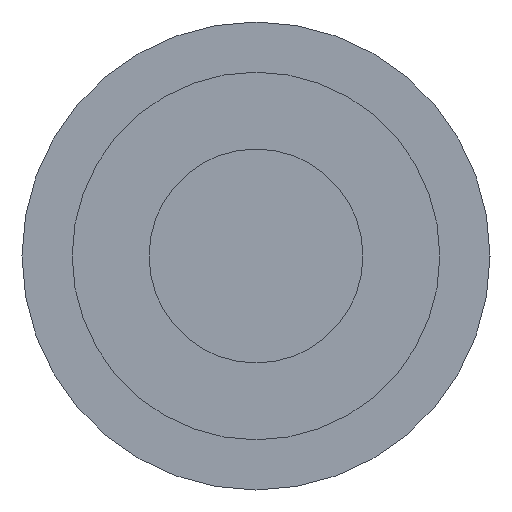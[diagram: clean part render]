
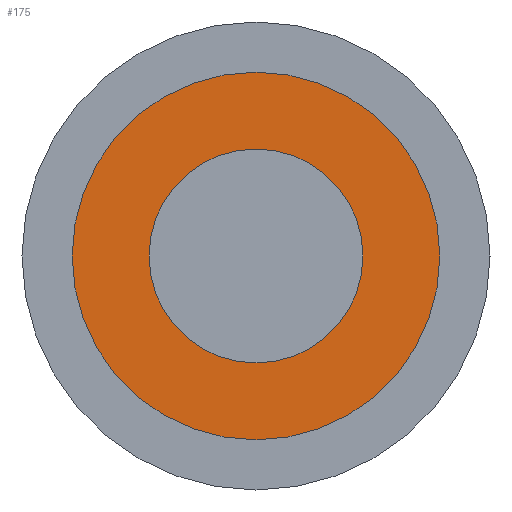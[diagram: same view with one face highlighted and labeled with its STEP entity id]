
A CAD part, left-side view. The second image highlights one B-rep face of the part: STEP entity #175.
In plain terms, the highlighted planar face has unit normal (-1, 0, 0).
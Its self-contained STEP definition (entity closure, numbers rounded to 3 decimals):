
#9 = AXIS2_PLACEMENT_3D ( 'NONE', #272, #73, #496 ) ;
#30 = EDGE_LOOP ( 'NONE', ( #232 ) ) ;
#35 = ORIENTED_EDGE ( 'NONE', *, *, #114, .F. ) ;
#36 = PLANE ( 'NONE',  #220 ) ;
#63 = EDGE_LOOP ( 'NONE', ( #35 ) ) ;
#73 = DIRECTION ( 'NONE',  ( -1., 0., 0. ) ) ;
#77 = CARTESIAN_POINT ( 'NONE',  ( 0., 0., 4. ) ) ;
#102 = VERTEX_POINT ( 'NONE', #276 ) ;
#109 = FACE_BOUND ( 'NONE', #63, .T. ) ;
#110 = DIRECTION ( 'NONE',  ( 0., 0., 1. ) ) ;
#111 = CARTESIAN_POINT ( 'NONE',  ( 0., 0., 0. ) ) ;
#114 = EDGE_CURVE ( 'NONE', #141, #141, #412, .T. ) ;
#116 = CARTESIAN_POINT ( 'NONE',  ( 0., 0., 0. ) ) ;
#141 = VERTEX_POINT ( 'NONE', #77 ) ;
#152 = DIRECTION ( 'NONE',  ( 1., 0., 0. ) ) ;
#175 = ADVANCED_FACE ( 'NONE', ( #109, #492 ), #36, .F. ) ;
#181 = DIRECTION ( 'NONE',  ( -1., 0., 0. ) ) ;
#220 = AXIS2_PLACEMENT_3D ( 'NONE', #116, #152, #362 ) ;
#232 = ORIENTED_EDGE ( 'NONE', *, *, #376, .T. ) ;
#272 = CARTESIAN_POINT ( 'NONE',  ( 0., 0., 0. ) ) ;
#276 = CARTESIAN_POINT ( 'NONE',  ( 0., 0., 6.875 ) ) ;
#362 = DIRECTION ( 'NONE',  ( 0., 0., -1. ) ) ;
#376 = EDGE_CURVE ( 'NONE', #102, #102, #436, .T. ) ;
#412 = CIRCLE ( 'NONE', #9, 4. ) ;
#436 = CIRCLE ( 'NONE', #478, 6.875 ) ;
#478 = AXIS2_PLACEMENT_3D ( 'NONE', #111, #181, #110 ) ;
#492 = FACE_OUTER_BOUND ( 'NONE', #30, .T. ) ;
#496 = DIRECTION ( 'NONE',  ( 0., 0., 1. ) ) ;
